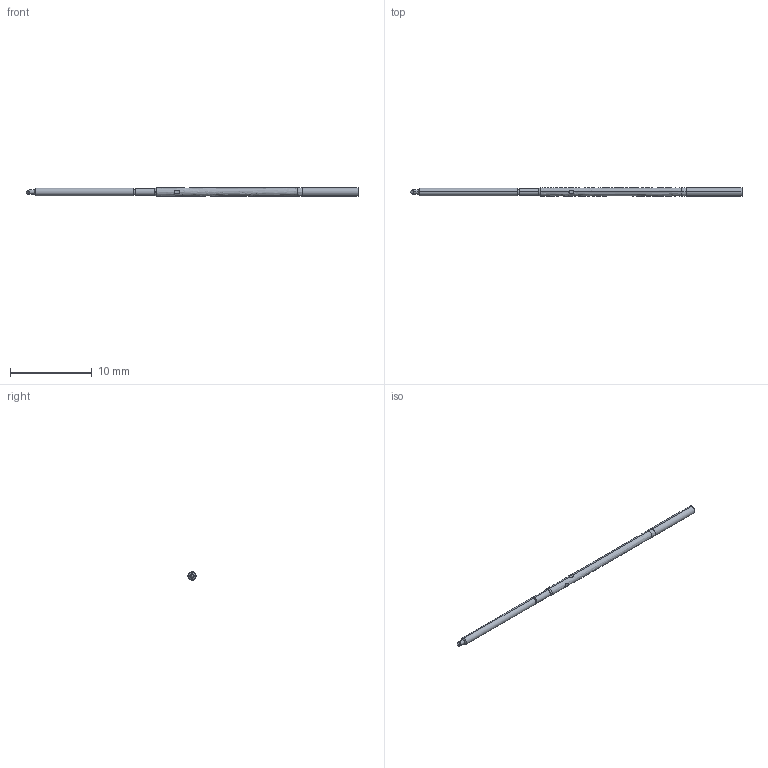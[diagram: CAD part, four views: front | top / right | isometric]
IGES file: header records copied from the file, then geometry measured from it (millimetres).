
Start section: SolidWorks IGES file using analytic representation for surfaces
Global section: file name: Z:\probe solid model mockups\Solidworks models\DER -050 IGS files\DER-050T RECD.IGS; native system: SolidWorks 2006 by SolidWorks Corporation; preprocessor: SolidWorks 2006 by SolidWorks Corporation; author: tsakatani; date: 071218.084516; units: inch
Bounding box: 40.53 x 1.07 x 1.08 mm (x, y, z)
Surface area: 178.3 mm2 (no closed solid volume)
Topology: 0 solids, 0 shells, 39 faces, 378 edges, 378 vertices
Faces by surface type: revolution 29, bspline 10
